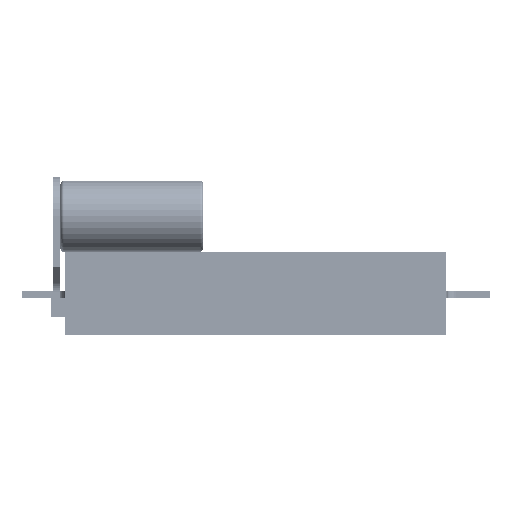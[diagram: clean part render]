
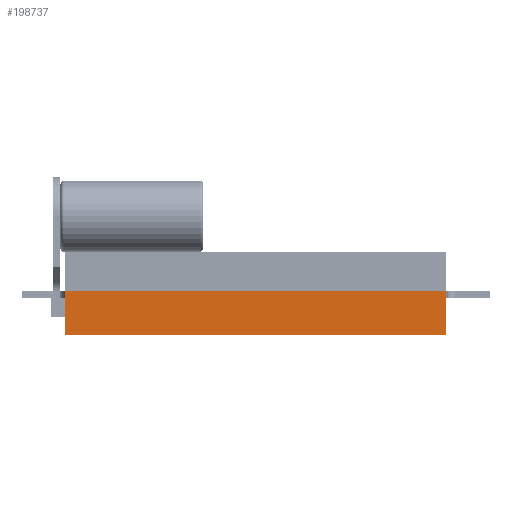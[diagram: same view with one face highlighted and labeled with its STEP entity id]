
A CAD part, front view. The second image highlights one B-rep face of the part: STEP entity #198737.
In plain terms, the highlighted planar face has unit normal (0, -1, 0).
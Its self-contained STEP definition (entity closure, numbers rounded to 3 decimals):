
#4430 = CARTESIAN_POINT ( 'NONE',  ( 43.6, -28.336, -11.1 ) ) ;
#15371 = CARTESIAN_POINT ( 'NONE',  ( -43.6, -28.336, 0. ) ) ;
#17526 = CARTESIAN_POINT ( 'NONE',  ( 43.6, -28.336, -10.15 ) ) ;
#17923 = VERTEX_POINT ( 'NONE', #44709 ) ;
#24643 = LINE ( 'NONE', #4430, #178309 ) ;
#26156 = PLANE ( 'NONE',  #76912 ) ;
#26503 = EDGE_CURVE ( 'NONE', #120699, #165216, #24643, .T. ) ;
#27987 = CARTESIAN_POINT ( 'NONE',  ( -43.6, -28.336, -10.15 ) ) ;
#35723 = VERTEX_POINT ( 'NONE', #15371 ) ;
#36345 = EDGE_CURVE ( 'NONE', #35723, #165216, #110853, .T. ) ;
#38461 = EDGE_LOOP ( 'NONE', ( #126518, #53818, #117583, #80766 ) ) ;
#43367 = LINE ( 'NONE', #27987, #136099 ) ;
#44709 = CARTESIAN_POINT ( 'NONE',  ( -43.6, -28.336, -10.15 ) ) ;
#45356 = CARTESIAN_POINT ( 'NONE',  ( 43.6, -28.336, 0. ) ) ;
#53818 = ORIENTED_EDGE ( 'NONE', *, *, #26503, .T. ) ;
#64654 = VECTOR ( 'NONE', #80582, 1000. ) ;
#66614 = EDGE_CURVE ( 'NONE', #17923, #35723, #96998, .T. ) ;
#76912 = AXIS2_PLACEMENT_3D ( 'NONE', #198303, #123424, #153208 ) ;
#80268 = VECTOR ( 'NONE', #157979, 1000. ) ;
#80582 = DIRECTION ( 'NONE',  ( 0., 0., 1. ) ) ;
#80766 = ORIENTED_EDGE ( 'NONE', *, *, #66614, .F. ) ;
#95475 = CARTESIAN_POINT ( 'NONE',  ( -43.6, -28.336, 0. ) ) ;
#96998 = LINE ( 'NONE', #128684, #64654 ) ;
#110853 = LINE ( 'NONE', #95475, #80268 ) ;
#117583 = ORIENTED_EDGE ( 'NONE', *, *, #36345, .F. ) ;
#120699 = VERTEX_POINT ( 'NONE', #17526 ) ;
#123424 = DIRECTION ( 'NONE',  ( 0., -1., 0. ) ) ;
#126518 = ORIENTED_EDGE ( 'NONE', *, *, #159078, .F. ) ;
#128684 = CARTESIAN_POINT ( 'NONE',  ( -43.6, -28.336, -11.1 ) ) ;
#129446 = DIRECTION ( 'NONE',  ( 0., 0., 1. ) ) ;
#136099 = VECTOR ( 'NONE', #154033, 1000. ) ;
#137774 = FACE_OUTER_BOUND ( 'NONE', #38461, .T. ) ;
#153208 = DIRECTION ( 'NONE',  ( 0., 0., -1. ) ) ;
#154033 = DIRECTION ( 'NONE',  ( -1., 0., 0. ) ) ;
#157979 = DIRECTION ( 'NONE',  ( 1., 0., 0. ) ) ;
#159078 = EDGE_CURVE ( 'NONE', #120699, #17923, #43367, .T. ) ;
#165216 = VERTEX_POINT ( 'NONE', #45356 ) ;
#178309 = VECTOR ( 'NONE', #129446, 1000. ) ;
#198303 = CARTESIAN_POINT ( 'NONE',  ( -43.6, -28.336, -11.1 ) ) ;
#198737 = ADVANCED_FACE ( 'NONE', ( #137774 ), #26156, .T. ) ;
